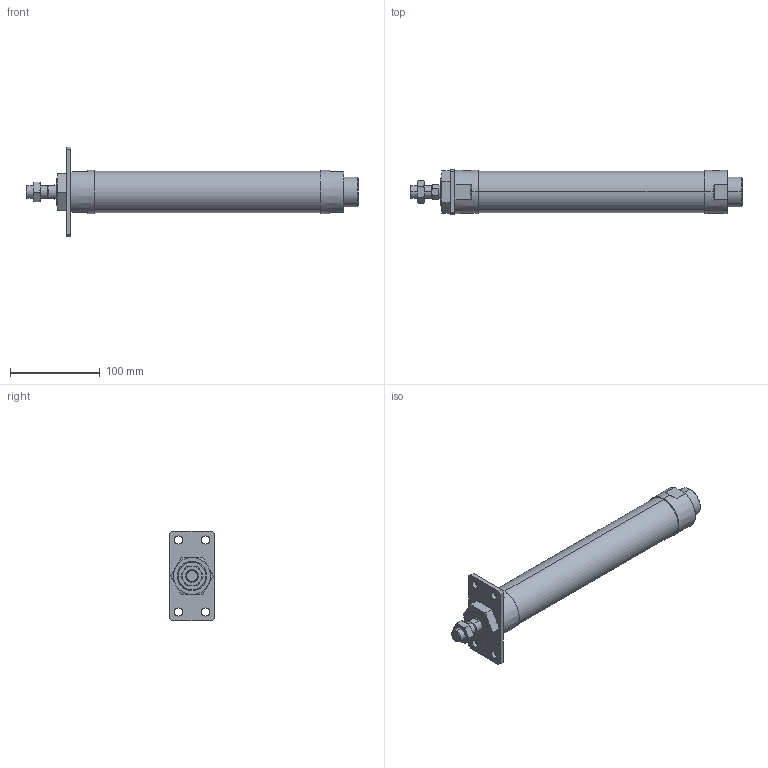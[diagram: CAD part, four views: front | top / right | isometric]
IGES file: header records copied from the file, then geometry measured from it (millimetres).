
Start section: SolidWorks IGES file using analytic representation for surfaces
Global section: file name: C:\Users\Toshiba\Desktop\J#2-40-200-A.IGS; native system: SolidWorks 2014; preprocessor: SolidWorks 2014; author: Toshiba; date: 160308.160336; units: millimetre
Bounding box: 369 x 50 x 100 mm (x, y, z)
Surface area: 69393.4 mm2 (no closed solid volume)
Topology: 0 solids, 0 shells, 114 faces, 2318 edges, 2314 vertices
Faces by surface type: bspline 67, revolution 47
